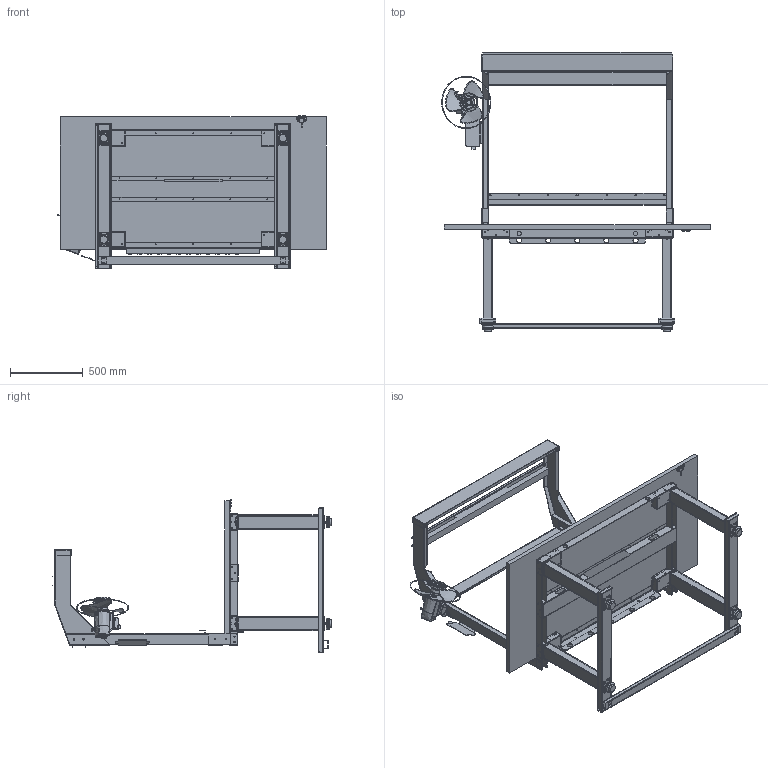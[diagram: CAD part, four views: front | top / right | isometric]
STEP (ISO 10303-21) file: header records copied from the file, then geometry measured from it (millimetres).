
FILE_DESCRIPTION (( 'STEP AP214' ), '1' );
FILE_NAME ('72INX36IN.STEP', '2018-10-08T19:09:44', ( '' ), ( '' ), 'SwSTEP 2.0', 'SolidWorks 2018', '' );
FILE_SCHEMA (( 'AUTOMOTIVE_DESIGN' ));
Length unit declared in the file: millimetre
Products named in the file (2): 72INX36IN
Bounding box: 1847.58 x 1924.07 x 1054.12 mm (x, y, z)
Surface area: 13953591 mm2 (no closed solid volume)
Topology: 0 solids, 114 shells, 8365 faces, 23613 edges, 15345 vertices
Faces by surface type: plane 5364, cylinder 2344, bspline 581, cone 76
Full cylindrical faces by diameter (mm): 3.6 x8, 4 x3, 4.2 x8, 4.6 x1, 5 x108, 5.8 x2, 6 x6, 6.35 x4, 6.4 x10, 6.647 x4, 6.8 x45, 7 x42, 7.937 x2, 7.938 x2, 8 x9, 8.5 x8, 9.347 x16, 9.525 x8, 10 x22, 11.35 x8, 12 x4, 14 x1, 17 x2, 19.25 x8, 30 x2, 30.636 x1, 35 x5, 49.7 x4, 63.994 x1, 66.587 x1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
Entity records: 424944 total; most frequent: CARTESIAN_POINT 122700, ORIENTED_EDGE 44370, DIRECTION 40316, EDGE_CURVE 22887, VECTOR 16634, LINE 16634, VERTEX_POINT 15144, AXIS2_PLACEMENT_3D 11841
